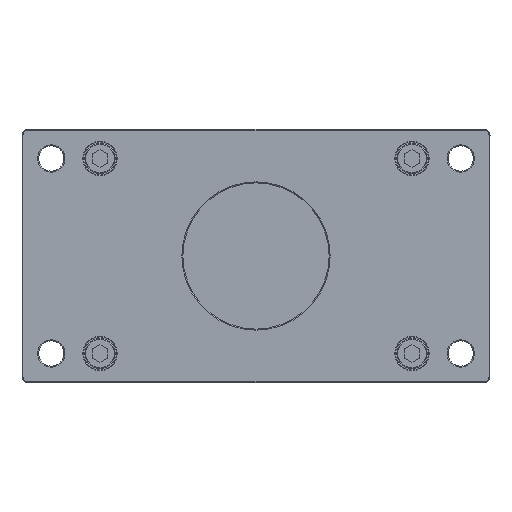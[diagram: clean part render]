
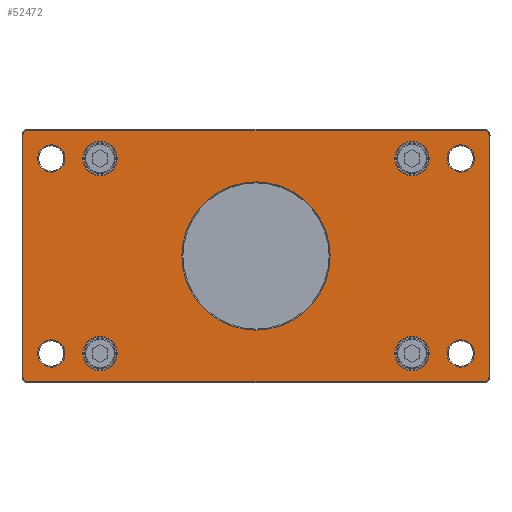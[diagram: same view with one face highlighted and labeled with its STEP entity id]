
A CAD part, front view. The second image highlights one B-rep face of the part: STEP entity #52472.
In plain terms, the highlighted planar face has unit normal (0, -1, 0) as drawn and (0, 1, 0) by its records, which use the part's own axes.
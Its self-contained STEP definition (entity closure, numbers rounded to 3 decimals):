
#50924=CARTESIAN_POINT('',(0.,9.,0.));
#50925=DIRECTION('',(0.,-1.,0.));
#50926=DIRECTION('',(1.,0.,0.));
#50927=AXIS2_PLACEMENT_3D('',#50924,#50925,#50926);
#50929=CARTESIAN_POINT('',(0.,9.,0.));
#50930=DIRECTION('',(0.,-1.,0.));
#50931=DIRECTION('',(-1.,0.,0.));
#50932=AXIS2_PLACEMENT_3D('',#50929,#50930,#50931);
#50934=CARTESIAN_POINT('',(-105.,9.,-50.));
#50935=DIRECTION('',(0.,-1.,0.));
#50936=DIRECTION('',(-1.,0.,0.));
#50937=AXIS2_PLACEMENT_3D('',#50934,#50935,#50936);
#50939=CARTESIAN_POINT('',(-105.,9.,-50.));
#50940=DIRECTION('',(0.,-1.,0.));
#50941=DIRECTION('',(1.,0.,0.));
#50942=AXIS2_PLACEMENT_3D('',#50939,#50940,#50941);
#50944=CARTESIAN_POINT('',(105.,9.,-50.));
#50945=DIRECTION('',(0.,-1.,0.));
#50946=DIRECTION('',(-1.,0.,0.));
#50947=AXIS2_PLACEMENT_3D('',#50944,#50945,#50946);
#50949=CARTESIAN_POINT('',(105.,9.,-50.));
#50950=DIRECTION('',(0.,-1.,0.));
#50951=DIRECTION('',(1.,0.,0.));
#50952=AXIS2_PLACEMENT_3D('',#50949,#50950,#50951);
#50954=CARTESIAN_POINT('',(105.,9.,50.));
#50955=DIRECTION('',(0.,-1.,0.));
#50956=DIRECTION('',(1.,0.,0.));
#50957=AXIS2_PLACEMENT_3D('',#50954,#50955,#50956);
#50959=CARTESIAN_POINT('',(105.,9.,50.));
#50960=DIRECTION('',(0.,-1.,0.));
#50961=DIRECTION('',(-1.,0.,0.));
#50962=AXIS2_PLACEMENT_3D('',#50959,#50960,#50961);
#50964=CARTESIAN_POINT('',(-105.,9.,50.));
#50965=DIRECTION('',(0.,-1.,0.));
#50966=DIRECTION('',(-1.,0.,0.));
#50967=AXIS2_PLACEMENT_3D('',#50964,#50965,#50966);
#50969=CARTESIAN_POINT('',(-105.,9.,50.));
#50970=DIRECTION('',(0.,-1.,0.));
#50971=DIRECTION('',(1.,0.,0.));
#50972=AXIS2_PLACEMENT_3D('',#50969,#50970,#50971);
#50974=CARTESIAN_POINT('',(-117.,9.,-62.));
#50975=DIRECTION('',(0.,1.,0.));
#50976=DIRECTION('',(0.,0.,-1.));
#50977=AXIS2_PLACEMENT_3D('',#50974,#50975,#50976);
#50979=DIRECTION('',(-1.,0.,0.));
#50980=VECTOR('',#50979,234.);
#50981=CARTESIAN_POINT('',(117.,9.,
-64.5));
#50982=LINE('',#50981,#50980);
#50983=CARTESIAN_POINT('',(117.,9.,-62.));
#50984=DIRECTION('',(0.,1.,0.));
#50985=DIRECTION('',(1.,0.,0.));
#50986=AXIS2_PLACEMENT_3D('',#50983,#50984,#50985);
#50988=DIRECTION('',(0.,0.,-1.));
#50989=VECTOR('',#50988,124.);
#50990=CARTESIAN_POINT('',(119.5,9.,62.));
#50991=LINE('',#50990,#50989);
#50992=CARTESIAN_POINT('',(117.,9.,62.));
#50993=DIRECTION('',(0.,1.,0.));
#50994=DIRECTION('',(0.,0.,1.));
#50995=AXIS2_PLACEMENT_3D('',#50992,#50993,#50994);
#50997=DIRECTION('',(1.,0.,0.));
#50998=VECTOR('',#50997,234.);
#50999=CARTESIAN_POINT('',(-117.,9.,
64.5));
#51000=LINE('',#50999,#50998);
#51001=CARTESIAN_POINT('',(-117.,9.,62.));
#51002=DIRECTION('',(0.,1.,0.));
#51003=DIRECTION('',(-1.,0.,0.));
#51004=AXIS2_PLACEMENT_3D('',#51001,#51002,#51003);
#51006=DIRECTION('',(0.,0.,1.));
#51007=VECTOR('',#51006,124.);
#51008=CARTESIAN_POINT('',(-119.5,9.,
-62.));
#51009=LINE('',#51008,#51007);
#51010=CARTESIAN_POINT('',(80.,9.,50.));
#51011=DIRECTION('',(0.,-1.,0.));
#51012=DIRECTION('',(1.,0.,0.));
#51013=AXIS2_PLACEMENT_3D('',#51010,#51011,#51012);
#51015=CARTESIAN_POINT('',(80.,9.,50.));
#51016=DIRECTION('',(0.,-1.,0.));
#51017=DIRECTION('',(-1.,0.,0.));
#51018=AXIS2_PLACEMENT_3D('',#51015,#51016,#51017);
#51020=CARTESIAN_POINT('',(-80.,9.,50.));
#51021=DIRECTION('',(0.,-1.,0.));
#51022=DIRECTION('',(1.,0.,0.));
#51023=AXIS2_PLACEMENT_3D('',#51020,#51021,#51022);
#51025=CARTESIAN_POINT('',(-80.,9.,50.));
#51026=DIRECTION('',(0.,-1.,0.));
#51027=DIRECTION('',(-1.,0.,0.));
#51028=AXIS2_PLACEMENT_3D('',#51025,#51026,#51027);
#51030=CARTESIAN_POINT('',(80.,9.,-50.));
#51031=DIRECTION('',(0.,-1.,0.));
#51032=DIRECTION('',(1.,0.,0.));
#51033=AXIS2_PLACEMENT_3D('',#51030,#51031,#51032);
#51035=CARTESIAN_POINT('',(80.,9.,-50.));
#51036=DIRECTION('',(0.,-1.,0.));
#51037=DIRECTION('',(-1.,0.,0.));
#51038=AXIS2_PLACEMENT_3D('',#51035,#51036,#51037);
#51040=CARTESIAN_POINT('',(-80.,9.,-50.));
#51041=DIRECTION('',(0.,-1.,0.));
#51042=DIRECTION('',(1.,0.,0.));
#51043=AXIS2_PLACEMENT_3D('',#51040,#51041,#51042);
#51045=CARTESIAN_POINT('',(-80.,9.,-50.));
#51046=DIRECTION('',(0.,-1.,0.));
#51047=DIRECTION('',(-1.,0.,0.));
#51048=AXIS2_PLACEMENT_3D('',#51045,#51046,#51047);
#51956=CARTESIAN_POINT('',(38.,9.,0.));
#51957=CARTESIAN_POINT('',(-38.,9.,0.));
#51958=VERTEX_POINT('',#51956);
#51959=VERTEX_POINT('',#51957);
#51972=CARTESIAN_POINT('',(-112.,9.,-50.));
#51973=CARTESIAN_POINT('',(-98.,9.,-50.));
#51974=VERTEX_POINT('',#51972);
#51975=VERTEX_POINT('',#51973);
#51980=CARTESIAN_POINT('',(98.,9.,-50.));
#51981=CARTESIAN_POINT('',(112.,9.,-50.));
#51982=VERTEX_POINT('',#51980);
#51983=VERTEX_POINT('',#51981);
#51988=CARTESIAN_POINT('',(112.,9.,50.));
#51989=CARTESIAN_POINT('',(98.,9.,50.));
#51990=VERTEX_POINT('',#51988);
#51991=VERTEX_POINT('',#51989);
#51996=CARTESIAN_POINT('',(-112.,9.,50.));
#51997=CARTESIAN_POINT('',(-98.,9.,50.));
#51998=VERTEX_POINT('',#51996);
#51999=VERTEX_POINT('',#51997);
#52068=CARTESIAN_POINT('',(-117.,9.,-64.5));
#52069=CARTESIAN_POINT('',(-119.5,9.,-62.));
#52070=VERTEX_POINT('',#52068);
#52071=VERTEX_POINT('',#52069);
#52076=CARTESIAN_POINT('',(-119.5,9.,
62.));
#52077=VERTEX_POINT('',#52076);
#52080=CARTESIAN_POINT('',(-117.,9.,64.5));
#52081=VERTEX_POINT('',#52080);
#52084=CARTESIAN_POINT('',(117.,9.,64.5));
#52085=VERTEX_POINT('',#52084);
#52088=CARTESIAN_POINT('',(119.5,9.,62.));
#52089=VERTEX_POINT('',#52088);
#52092=CARTESIAN_POINT('',(119.5,9.,
-62.));
#52093=VERTEX_POINT('',#52092);
#52096=CARTESIAN_POINT('',(117.,9.,-64.5));
#52097=VERTEX_POINT('',#52096);
#52116=CARTESIAN_POINT('',(88.8,9.,50.));
#52117=CARTESIAN_POINT('',(71.2,9.,50.));
#52118=VERTEX_POINT('',#52116);
#52119=VERTEX_POINT('',#52117);
#52140=CARTESIAN_POINT('',(-71.2,9.,50.));
#52141=CARTESIAN_POINT('',(-88.8,9.,50.));
#52142=VERTEX_POINT('',#52140);
#52143=VERTEX_POINT('',#52141);
#52156=CARTESIAN_POINT('',(88.8,9.,-50.));
#52157=CARTESIAN_POINT('',(71.2,9.,-50.));
#52158=VERTEX_POINT('',#52156);
#52159=VERTEX_POINT('',#52157);
#52164=CARTESIAN_POINT('',(-71.2,9.,-50.));
#52165=CARTESIAN_POINT('',(-88.8,9.,-50.));
#52166=VERTEX_POINT('',#52164);
#52167=VERTEX_POINT('',#52165);
#52396=CARTESIAN_POINT('',(0.,9.,0.));
#52397=DIRECTION('',(0.,1.,0.));
#52398=DIRECTION('',(1.,0.,0.));
#52399=AXIS2_PLACEMENT_3D('',#52396,#52397,#52398);
#52400=PLANE('',#52399);
#52402=ORIENTED_EDGE('',*,*,#52401,.F.);
#52404=ORIENTED_EDGE('',*,*,#52403,.F.);
#52406=ORIENTED_EDGE('',*,*,#52405,.F.);
#52408=ORIENTED_EDGE('',*,*,#52407,.F.);
#52410=ORIENTED_EDGE('',*,*,#52409,.F.);
#52412=ORIENTED_EDGE('',*,*,#52411,.F.);
#52414=ORIENTED_EDGE('',*,*,#52413,.F.);
#52416=ORIENTED_EDGE('',*,*,#52415,.F.);
#52417=EDGE_LOOP('',(#52402,#52404,#52406,#52408,#52410,#52412,#52414,#52416));
#52418=FACE_OUTER_BOUND('',#52417,.F.);
#52420=ORIENTED_EDGE('',*,*,#52419,.F.);
#52422=ORIENTED_EDGE('',*,*,#52421,.F.);
#52423=EDGE_LOOP('',(#52420,#52422));
#52424=FACE_BOUND('',#52423,.F.);
#52426=ORIENTED_EDGE('',*,*,#52425,.F.);
#52428=ORIENTED_EDGE('',*,*,#52427,.F.);
#52429=EDGE_LOOP('',(#52426,#52428));
#52430=FACE_BOUND('',#52429,.F.);
#52432=ORIENTED_EDGE('',*,*,#52431,.F.);
#52434=ORIENTED_EDGE('',*,*,#52433,.F.);
#52435=EDGE_LOOP('',(#52432,#52434));
#52436=FACE_BOUND('',#52435,.F.);
#52438=ORIENTED_EDGE('',*,*,#52437,.F.);
#52440=ORIENTED_EDGE('',*,*,#52439,.F.);
#52441=EDGE_LOOP('',(#52438,#52440));
#52442=FACE_BOUND('',#52441,.F.);
#52444=ORIENTED_EDGE('',*,*,#52443,.F.);
#52445=ORIENTED_EDGE('',*,*,#52386,.F.);
#52446=EDGE_LOOP('',(#52444,#52445));
#52447=FACE_BOUND('',#52446,.F.);
#52449=ORIENTED_EDGE('',*,*,#52448,.F.);
#52451=ORIENTED_EDGE('',*,*,#52450,.F.);
#52452=EDGE_LOOP('',(#52449,#52451));
#52453=FACE_BOUND('',#52452,.F.);
#52455=ORIENTED_EDGE('',*,*,#52454,.F.);
#52457=ORIENTED_EDGE('',*,*,#52456,.F.);
#52458=EDGE_LOOP('',(#52455,#52457));
#52459=FACE_BOUND('',#52458,.F.);
#52461=ORIENTED_EDGE('',*,*,#52460,.F.);
#52463=ORIENTED_EDGE('',*,*,#52462,.F.);
#52464=EDGE_LOOP('',(#52461,#52463));
#52465=FACE_BOUND('',#52464,.F.);
#52467=ORIENTED_EDGE('',*,*,#52466,.F.);
#52469=ORIENTED_EDGE('',*,*,#52468,.F.);
#52470=EDGE_LOOP('',(#52467,#52469));
#52471=FACE_BOUND('',#52470,.F.);
#52472=ADVANCED_FACE('',(#52418,#52424,#52430,#52436,#52442,#52447,#52453,
#52459,#52465,#52471),#52400,.T.);
#50928=CIRCLE('',#50927,38.);
#50933=CIRCLE('',#50932,38.);
#50938=CIRCLE('',#50937,7.);
#50943=CIRCLE('',#50942,7.);
#50948=CIRCLE('',#50947,7.);
#50953=CIRCLE('',#50952,7.);
#50958=CIRCLE('',#50957,7.);
#50963=CIRCLE('',#50962,7.);
#50968=CIRCLE('',#50967,7.);
#50973=CIRCLE('',#50972,7.);
#50978=CIRCLE('',#50977,2.5);
#50987=CIRCLE('',#50986,2.5);
#50996=CIRCLE('',#50995,2.5);
#51005=CIRCLE('',#51004,2.5);
#51014=CIRCLE('',#51013,8.8);
#51019=CIRCLE('',#51018,8.8);
#51024=CIRCLE('',#51023,8.8);
#51029=CIRCLE('',#51028,8.8);
#51034=CIRCLE('',#51033,8.8);
#51039=CIRCLE('',#51038,8.8);
#51044=CIRCLE('',#51043,8.8);
#51049=CIRCLE('',#51048,8.8);
#52386=EDGE_CURVE('',#51959,#51958,#50933,.T.);
#52401=EDGE_CURVE('',#52070,#52071,#50978,.T.);
#52403=EDGE_CURVE('',#52097,#52070,#50982,.T.);
#52405=EDGE_CURVE('',#52093,#52097,#50987,.T.);
#52407=EDGE_CURVE('',#52089,#52093,#50991,.T.);
#52409=EDGE_CURVE('',#52085,#52089,#50996,.T.);
#52411=EDGE_CURVE('',#52081,#52085,#51000,.T.);
#52413=EDGE_CURVE('',#52077,#52081,#51005,.T.);
#52415=EDGE_CURVE('',#52071,#52077,#51009,.T.);
#52419=EDGE_CURVE('',#51974,#51975,#50938,.T.);
#52421=EDGE_CURVE('',#51975,#51974,#50943,.T.);
#52425=EDGE_CURVE('',#51982,#51983,#50948,.T.);
#52427=EDGE_CURVE('',#51983,#51982,#50953,.T.);
#52431=EDGE_CURVE('',#51990,#51991,#50958,.T.);
#52433=EDGE_CURVE('',#51991,#51990,#50963,.T.);
#52437=EDGE_CURVE('',#51998,#51999,#50968,.T.);
#52439=EDGE_CURVE('',#51999,#51998,#50973,.T.);
#52443=EDGE_CURVE('',#51958,#51959,#50928,.T.);
#52448=EDGE_CURVE('',#52118,#52119,#51014,.T.);
#52450=EDGE_CURVE('',#52119,#52118,#51019,.T.);
#52454=EDGE_CURVE('',#52142,#52143,#51024,.T.);
#52456=EDGE_CURVE('',#52143,#52142,#51029,.T.);
#52460=EDGE_CURVE('',#52158,#52159,#51034,.T.);
#52462=EDGE_CURVE('',#52159,#52158,#51039,.T.);
#52466=EDGE_CURVE('',#52166,#52167,#51044,.T.);
#52468=EDGE_CURVE('',#52167,#52166,#51049,.T.);
